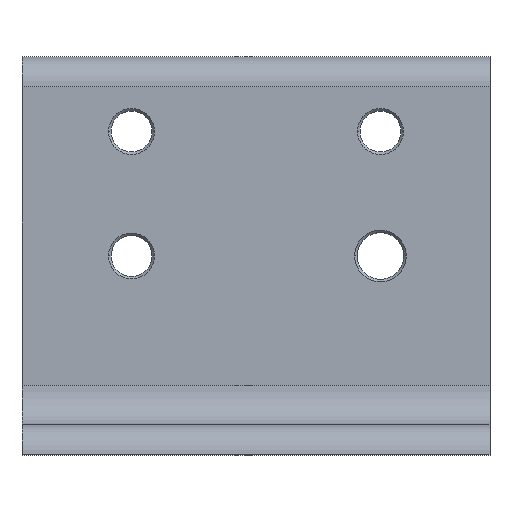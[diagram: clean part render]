
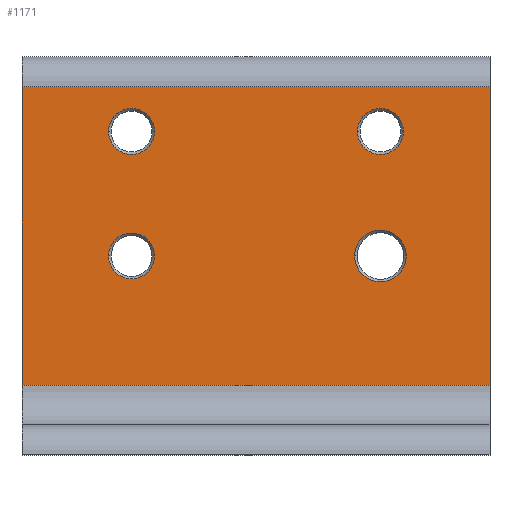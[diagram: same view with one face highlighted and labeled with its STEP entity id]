
A CAD part, top view. The second image highlights one B-rep face of the part: STEP entity #1171.
In plain terms, the highlighted planar face has unit normal (0, 0, 1).
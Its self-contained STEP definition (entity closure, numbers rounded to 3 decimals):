
#43 = CARTESIAN_POINT ( 'NONE',  ( -47., 80., -14. ) ) ;
#55 = DIRECTION ( 'NONE',  ( 0., -1., 0. ) ) ;
#66 = ORIENTED_EDGE ( 'NONE', *, *, #323, .T. ) ;
#73 = ORIENTED_EDGE ( 'NONE', *, *, #535, .T. ) ;
#80 = DIRECTION ( 'NONE',  ( 0., 0., -1. ) ) ;
#86 = AXIS2_PLACEMENT_3D ( 'NONE', #436, #1196, #546 ) ;
#89 = ORIENTED_EDGE ( 'NONE', *, *, #1142, .T. ) ;
#101 = VERTEX_POINT ( 'NONE', #300 ) ;
#105 = CIRCLE ( 'NONE', #412, 4.6 ) ;
#111 = EDGE_CURVE ( 'NONE', #336, #912, #1131, .T. ) ;
#115 = CARTESIAN_POINT ( 'NONE',  ( -47., 14., -14. ) ) ;
#117 = EDGE_LOOP ( 'NONE', ( #73, #924 ) ) ;
#131 = AXIS2_PLACEMENT_3D ( 'NONE', #1163, #514, #1266 ) ;
#136 = CARTESIAN_POINT ( 'NONE',  ( 47., 14., -14. ) ) ;
#147 = EDGE_CURVE ( 'NONE', #336, #955, #561, .T. ) ;
#153 = ORIENTED_EDGE ( 'NONE', *, *, #758, .T. ) ;
#196 = EDGE_LOOP ( 'NONE', ( #89, #952 ) ) ;
#204 = LINE ( 'NONE', #1159, #451 ) ;
#207 = EDGE_CURVE ( 'NONE', #974, #1156, #1244, .T. ) ;
#233 = VERTEX_POINT ( 'NONE', #1069 ) ;
#264 = CARTESIAN_POINT ( 'NONE',  ( 47., 80., -14. ) ) ;
#269 = PLANE ( 'NONE',  #435 ) ;
#300 = CARTESIAN_POINT ( 'NONE',  ( 19.815, 40., -14. ) ) ;
#304 = CIRCLE ( 'NONE', #1187, 5.185 ) ;
#308 = DIRECTION ( 'NONE',  ( -1., 0., 0. ) ) ;
#323 = EDGE_CURVE ( 'NONE', #1377, #1209, #576, .T. ) ;
#336 = VERTEX_POINT ( 'NONE', #883 ) ;
#338 = CARTESIAN_POINT ( 'NONE',  ( -25., 65., -14. ) ) ;
#340 = CARTESIAN_POINT ( 'NONE',  ( -25., 40., -14. ) ) ;
#367 = CARTESIAN_POINT ( 'NONE',  ( -47., 80., -14. ) ) ;
#377 = CARTESIAN_POINT ( 'NONE',  ( -20.4, 40., -14. ) ) ;
#378 = VERTEX_POINT ( 'NONE', #563 ) ;
#391 = EDGE_CURVE ( 'NONE', #912, #406, #899, .T. ) ;
#406 = VERTEX_POINT ( 'NONE', #115 ) ;
#412 = AXIS2_PLACEMENT_3D ( 'NONE', #517, #1271, #629 ) ;
#435 = AXIS2_PLACEMENT_3D ( 'NONE', #367, #1128, #481 ) ;
#436 = CARTESIAN_POINT ( 'NONE',  ( 25., 65., -14. ) ) ;
#440 = DIRECTION ( 'NONE',  ( -1., 0., 0. ) ) ;
#448 = DIRECTION ( 'NONE',  ( -1., 0., 0. ) ) ;
#451 = VECTOR ( 'NONE', #1258, 1000. ) ;
#470 = DIRECTION ( 'NONE',  ( -1., 0., 0. ) ) ;
#481 = DIRECTION ( 'NONE',  ( -1., 0., 0. ) ) ;
#489 = FACE_BOUND ( 'NONE', #622, .T. ) ;
#514 = DIRECTION ( 'NONE',  ( 0., 0., -1. ) ) ;
#517 = CARTESIAN_POINT ( 'NONE',  ( 25., 65., -14. ) ) ;
#522 = AXIS2_PLACEMENT_3D ( 'NONE', #340, #1105, #448 ) ;
#535 = EDGE_CURVE ( 'NONE', #687, #101, #559, .T. ) ;
#536 = DIRECTION ( 'NONE',  ( 0., 0., -1. ) ) ;
#546 = DIRECTION ( 'NONE',  ( -1., 0., 0. ) ) ;
#559 = CIRCLE ( 'NONE', #1100, 5.185 ) ;
#561 = LINE ( 'NONE', #264, #1350 ) ;
#563 = CARTESIAN_POINT ( 'NONE',  ( 29.6, 65., -14. ) ) ;
#564 = CIRCLE ( 'NONE', #86, 4.6 ) ;
#576 = CIRCLE ( 'NONE', #522, 4.6 ) ;
#595 = CARTESIAN_POINT ( 'NONE',  ( -29.6, 40., -14. ) ) ;
#610 = EDGE_CURVE ( 'NONE', #406, #955, #204, .T. ) ;
#622 = EDGE_LOOP ( 'NONE', ( #66, #1049 ) ) ;
#623 = EDGE_CURVE ( 'NONE', #1209, #1377, #1006, .T. ) ;
#629 = DIRECTION ( 'NONE',  ( -1., 0., 0. ) ) ;
#637 = EDGE_CURVE ( 'NONE', #233, #378, #105, .T. ) ;
#645 = ORIENTED_EDGE ( 'NONE', *, *, #147, .F. ) ;
#655 = CARTESIAN_POINT ( 'NONE',  ( -25., 65., -14. ) ) ;
#687 = VERTEX_POINT ( 'NONE', #737 ) ;
#716 = CARTESIAN_POINT ( 'NONE',  ( 25., 40., -14. ) ) ;
#737 = CARTESIAN_POINT ( 'NONE',  ( 30.185, 40., -14. ) ) ;
#742 = FACE_BOUND ( 'NONE', #117, .T. ) ;
#758 = EDGE_CURVE ( 'NONE', #1156, #974, #1215, .T. ) ;
#781 = FACE_BOUND ( 'NONE', #1283, .T. ) ;
#789 = DIRECTION ( 'NONE',  ( 0., -1., 0. ) ) ;
#800 = CARTESIAN_POINT ( 'NONE',  ( -47., 74., -14. ) ) ;
#823 = DIRECTION ( 'NONE',  ( -1., 0., 0. ) ) ;
#844 = VECTOR ( 'NONE', #470, 1000. ) ;
#873 = ORIENTED_EDGE ( 'NONE', *, *, #111, .T. ) ;
#883 = CARTESIAN_POINT ( 'NONE',  ( 47., 74., -14. ) ) ;
#899 = LINE ( 'NONE', #43, #1367 ) ;
#912 = VERTEX_POINT ( 'NONE', #800 ) ;
#924 = ORIENTED_EDGE ( 'NONE', *, *, #1082, .T. ) ;
#952 = ORIENTED_EDGE ( 'NONE', *, *, #637, .T. ) ;
#955 = VERTEX_POINT ( 'NONE', #136 ) ;
#956 = DIRECTION ( 'NONE',  ( 0., 0., -1. ) ) ;
#974 = VERTEX_POINT ( 'NONE', #1322 ) ;
#1005 = AXIS2_PLACEMENT_3D ( 'NONE', #338, #1099, #440 ) ;
#1006 = CIRCLE ( 'NONE', #131, 4.6 ) ;
#1020 = CARTESIAN_POINT ( 'NONE',  ( -47., 74., -14. ) ) ;
#1049 = ORIENTED_EDGE ( 'NONE', *, *, #623, .T. ) ;
#1063 = EDGE_LOOP ( 'NONE', ( #645, #873, #1098, #1344 ) ) ;
#1069 = CARTESIAN_POINT ( 'NONE',  ( 20.4, 65., -14. ) ) ;
#1072 = FACE_OUTER_BOUND ( 'NONE', #1063, .T. ) ;
#1082 = EDGE_CURVE ( 'NONE', #101, #687, #304, .T. ) ;
#1094 = CARTESIAN_POINT ( 'NONE',  ( -20.4, 65., -14. ) ) ;
#1098 = ORIENTED_EDGE ( 'NONE', *, *, #391, .T. ) ;
#1099 = DIRECTION ( 'NONE',  ( 0., 0., -1. ) ) ;
#1100 = AXIS2_PLACEMENT_3D ( 'NONE', #716, #80, #823 ) ;
#1105 = DIRECTION ( 'NONE',  ( 0., 0., -1. ) ) ;
#1128 = DIRECTION ( 'NONE',  ( 0., 0., -1. ) ) ;
#1131 = LINE ( 'NONE', #1020, #844 ) ;
#1142 = EDGE_CURVE ( 'NONE', #378, #233, #564, .T. ) ;
#1156 = VERTEX_POINT ( 'NONE', #1094 ) ;
#1159 = CARTESIAN_POINT ( 'NONE',  ( -47., 14., -14. ) ) ;
#1163 = CARTESIAN_POINT ( 'NONE',  ( -25., 40., -14. ) ) ;
#1171 = ADVANCED_FACE ( 'NONE', ( #489, #781, #1381, #742, #1072 ), #269, .F. ) ;
#1183 = CARTESIAN_POINT ( 'NONE',  ( 25., 40., -14. ) ) ;
#1187 = AXIS2_PLACEMENT_3D ( 'NONE', #1183, #536, #1295 ) ;
#1196 = DIRECTION ( 'NONE',  ( 0., 0., -1. ) ) ;
#1209 = VERTEX_POINT ( 'NONE', #595 ) ;
#1215 = CIRCLE ( 'NONE', #1005, 4.6 ) ;
#1244 = CIRCLE ( 'NONE', #1348, 4.6 ) ;
#1258 = DIRECTION ( 'NONE',  ( 1., 0., 0. ) ) ;
#1266 = DIRECTION ( 'NONE',  ( -1., 0., 0. ) ) ;
#1271 = DIRECTION ( 'NONE',  ( 0., 0., -1. ) ) ;
#1283 = EDGE_LOOP ( 'NONE', ( #153, #1323 ) ) ;
#1295 = DIRECTION ( 'NONE',  ( -1., 0., 0. ) ) ;
#1322 = CARTESIAN_POINT ( 'NONE',  ( -29.6, 65., -14. ) ) ;
#1323 = ORIENTED_EDGE ( 'NONE', *, *, #207, .T. ) ;
#1344 = ORIENTED_EDGE ( 'NONE', *, *, #610, .T. ) ;
#1348 = AXIS2_PLACEMENT_3D ( 'NONE', #655, #956, #308 ) ;
#1350 = VECTOR ( 'NONE', #55, 1000. ) ;
#1367 = VECTOR ( 'NONE', #789, 1000. ) ;
#1377 = VERTEX_POINT ( 'NONE', #377 ) ;
#1381 = FACE_BOUND ( 'NONE', #196, .T. ) ;
